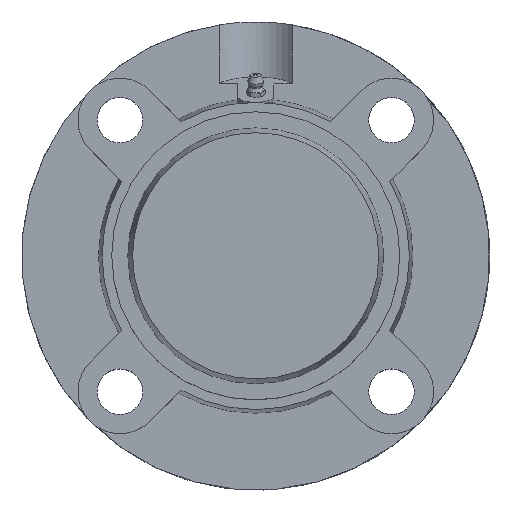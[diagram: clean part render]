
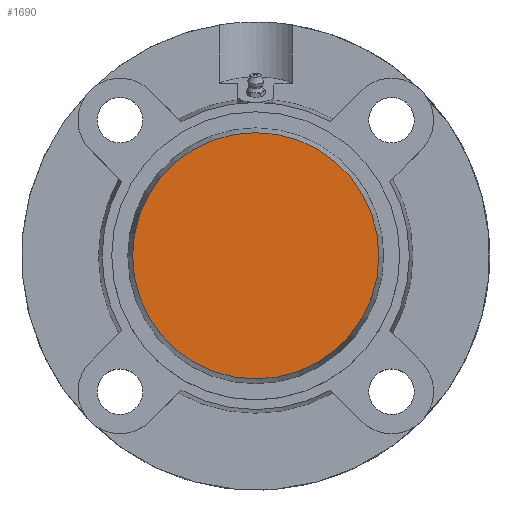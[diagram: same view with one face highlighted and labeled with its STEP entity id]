
A CAD part, top view. The second image highlights one B-rep face of the part: STEP entity #1690.
In plain terms, the highlighted planar face has unit normal (0, 0, 1).
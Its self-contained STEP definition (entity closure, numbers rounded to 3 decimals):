
#1674=CARTESIAN_POINT('',(0.0,25.651,37.));
#1675=DIRECTION('',(0.0,0.0,1.0));
#1676=DIRECTION('',(1.0,0.0,0.0));
#1677=AXIS2_PLACEMENT_3D('',#1674,#1675,#1676);
#1678=PLANE('',#1677);
#1679=CARTESIAN_POINT('',(0.0,51.302,37.));
#1680=VERTEX_POINT('',#1679);
#1681=CARTESIAN_POINT('',(0.0,0.,37.0));
#1682=DIRECTION('',(0.0,0.0,-1.0));
#1683=DIRECTION('',(0.0,1.0,0.0));
#1684=AXIS2_PLACEMENT_3D('',#1681,#1682,#1683);
#1685=CIRCLE('',#1684,51.302);
#1686=EDGE_CURVE('',#1680,#1680,#1685,.T.);
#1687=ORIENTED_EDGE('',*,*,#1686,.F.);
#1688=EDGE_LOOP('',(#1687));
#1689=FACE_OUTER_BOUND('',#1688,.T.);
#1690=ADVANCED_FACE('',(#1689),#1678,.T.);
